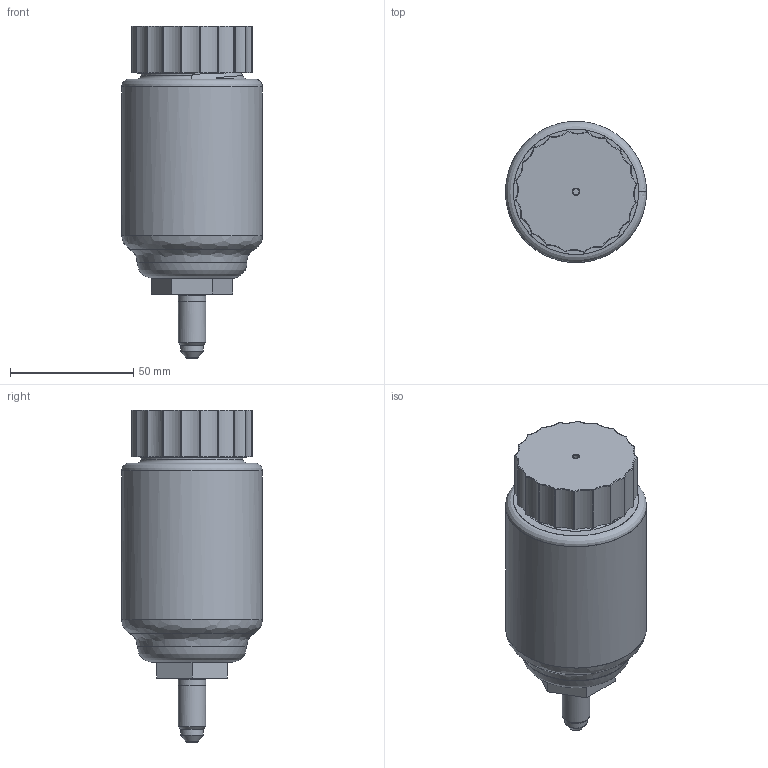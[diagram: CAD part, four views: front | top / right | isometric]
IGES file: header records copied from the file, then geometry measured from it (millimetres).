
Start section: C
Global section: file name: 74-230, 6540.igs; native system: By Siemens PLM Incorporated; preprocessor: XPlus GENERIC/IGES 19.0.9; author: Author; organization: Title; date: 20171103.080534; units: millimetre
Bounding box: 57.15 x 57.11 x 134.57 mm (x, y, z)
Surface area: 77890.7 mm2 (no closed solid volume)
Topology: 0 solids, 0 shells, 473 faces, 2982 edges, 2976 vertices
Faces by surface type: bspline 473
